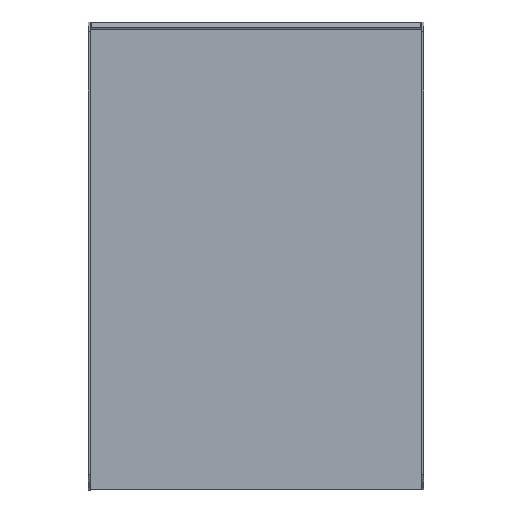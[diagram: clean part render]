
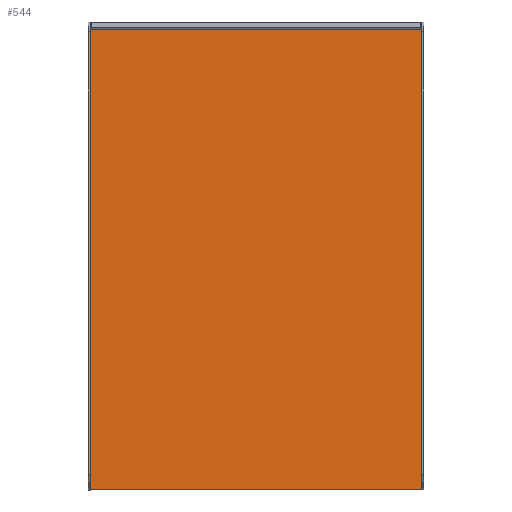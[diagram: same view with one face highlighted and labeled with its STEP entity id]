
A CAD part, front view. The second image highlights one B-rep face of the part: STEP entity #544.
In plain terms, the highlighted planar face has unit normal (0, -1, 0).
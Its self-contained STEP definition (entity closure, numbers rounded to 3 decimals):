
#44 = DIRECTION ( 'NONE',  ( 1., 0., 0. ) ) ;
#48 = VERTEX_POINT ( 'NONE', #98 ) ;
#98 = CARTESIAN_POINT ( 'NONE',  ( -347., 0., 247. ) ) ;
#131 = ORIENTED_EDGE ( 'NONE', *, *, #500, .F. ) ;
#153 = CARTESIAN_POINT ( 'NONE',  ( -347., 0., 247. ) ) ;
#188 = DIRECTION ( 'NONE',  ( -1., 0., 0. ) ) ;
#190 = AXIS2_PLACEMENT_3D ( 'NONE', #1306, #1452, #1039 ) ;
#259 = EDGE_CURVE ( 'NONE', #48, #1207, #836, .T. ) ;
#291 = CARTESIAN_POINT ( 'NONE',  ( -347., 0., -247. ) ) ;
#482 = FACE_OUTER_BOUND ( 'NONE', #599, .T. ) ;
#500 = EDGE_CURVE ( 'NONE', #1426, #1108, #615, .T. ) ;
#544 = ADVANCED_FACE ( 'NONE', ( #482 ), #1015, .T. ) ;
#562 = VECTOR ( 'NONE', #188, 1000. ) ;
#588 = EDGE_CURVE ( 'NONE', #1108, #48, #644, .T. ) ;
#599 = EDGE_LOOP ( 'NONE', ( #1241, #1308, #1356, #131 ) ) ;
#604 = CARTESIAN_POINT ( 'NONE',  ( -347., 0., -247. ) ) ;
#615 = LINE ( 'NONE', #604, #562 ) ;
#623 = DIRECTION ( 'NONE',  ( 0., 0., 1. ) ) ;
#644 = LINE ( 'NONE', #790, #1158 ) ;
#790 = CARTESIAN_POINT ( 'NONE',  ( -347., 0., 247. ) ) ;
#804 = LINE ( 'NONE', #1485, #973 ) ;
#836 = LINE ( 'NONE', #153, #970 ) ;
#866 = CARTESIAN_POINT ( 'NONE',  ( 347., 0., -247. ) ) ;
#944 = DIRECTION ( 'NONE',  ( 0., 0., -1. ) ) ;
#970 = VECTOR ( 'NONE', #44, 1000. ) ;
#973 = VECTOR ( 'NONE', #944, 1000. ) ;
#1015 = PLANE ( 'NONE',  #190 ) ;
#1039 = DIRECTION ( 'NONE',  ( 0., 0., -1. ) ) ;
#1108 = VERTEX_POINT ( 'NONE', #291 ) ;
#1142 = EDGE_CURVE ( 'NONE', #1207, #1426, #804, .T. ) ;
#1158 = VECTOR ( 'NONE', #623, 1000. ) ;
#1207 = VERTEX_POINT ( 'NONE', #1475 ) ;
#1241 = ORIENTED_EDGE ( 'NONE', *, *, #1142, .F. ) ;
#1306 = CARTESIAN_POINT ( 'NONE',  ( 0., 0., 0. ) ) ;
#1308 = ORIENTED_EDGE ( 'NONE', *, *, #259, .F. ) ;
#1356 = ORIENTED_EDGE ( 'NONE', *, *, #588, .F. ) ;
#1426 = VERTEX_POINT ( 'NONE', #866 ) ;
#1452 = DIRECTION ( 'NONE',  ( 0., -1., 0. ) ) ;
#1475 = CARTESIAN_POINT ( 'NONE',  ( 347., 0., 247. ) ) ;
#1485 = CARTESIAN_POINT ( 'NONE',  ( 347., 0., 247. ) ) ;
